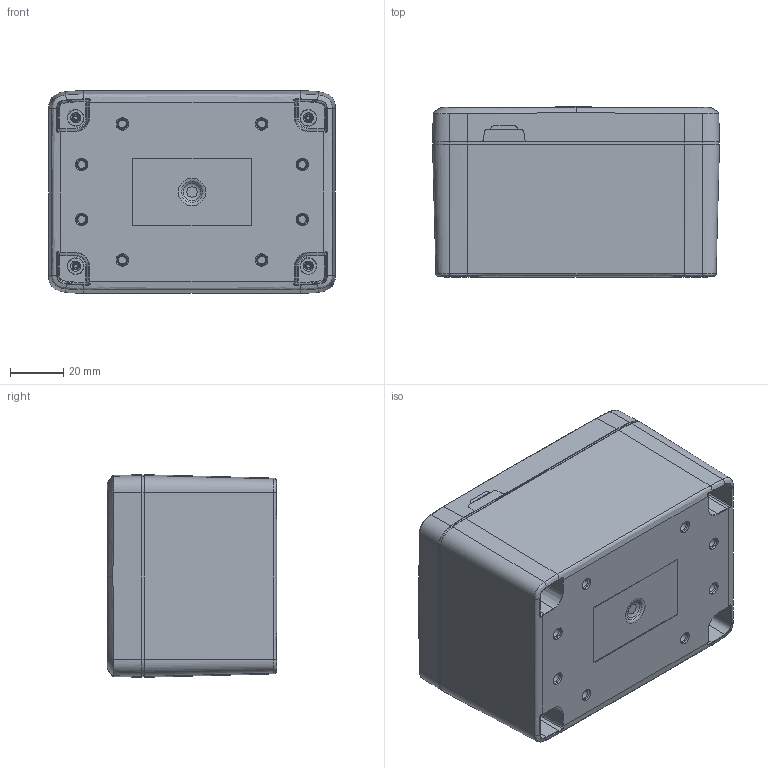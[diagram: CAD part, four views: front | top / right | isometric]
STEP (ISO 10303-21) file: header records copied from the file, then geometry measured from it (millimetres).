
FILE_DESCRIPTION (( 'STEP AP214' ), '1' );
FILE_NAME ('HN-34-12.STEP', '2026-09-24T17:59:29', ( '' ), ( '' ), 'SwSTEP 2.0', 'SolidWorks 2026', '' );
FILE_SCHEMA (( 'AUTOMOTIVE_DESIGN' ));
Length unit declared in the file: inch
Products named in the file (9): LABEL-107; INSERTS-3_INSERTS-3; HN-34B_HN-34BP-01; HN-34C_HN-34C-02; HN-34G_default; HN-34-12; SCREWS-054_DEFAULT; HN-34CG_HN-34CG-02; HN-34BN_HN-34BPN-01
Assembly tree (14 placements, depth 3):
  HN-34-12
    HN-34B_HN-34BP-01
      HN-34BN_HN-34BPN-01
      INSERTS-3_INSERTS-3  x4
      LABEL-107
    HN-34CG_HN-34CG-02
      HN-34C_HN-34C-02
      HN-34G_default
    SCREWS-054_DEFAULT  x4
Bounding box: 107.95 x 63.88 x 76.2 mm (x, y, z)
Volume: 141329.3 mm3; surface area: 102122.9 mm2
Topology: 11 solids, 13 shells, 3001 faces, 7043 edges, 4088 vertices
Faces by surface type: bspline 678, torus 664, cone 602, cylinder 496, plane 493, sphere 68
Full cylindrical faces by diameter (mm): 2.413 x4, 2.705 x4, 4.318 x4, 4.445 x16, 4.699 x8, 5.283 x8, 6.274 x4, 6.858 x4
Entity records: 101600 total; most frequent: CARTESIAN_POINT 46802, ORIENTED_EDGE 11910, DIRECTION 10229, EDGE_CURVE 5958, AXIS2_PLACEMENT_3D 4456, VERTEX_POINT 3597, EDGE_LOOP 2880, FACE_OUTER_BOUND 2703
